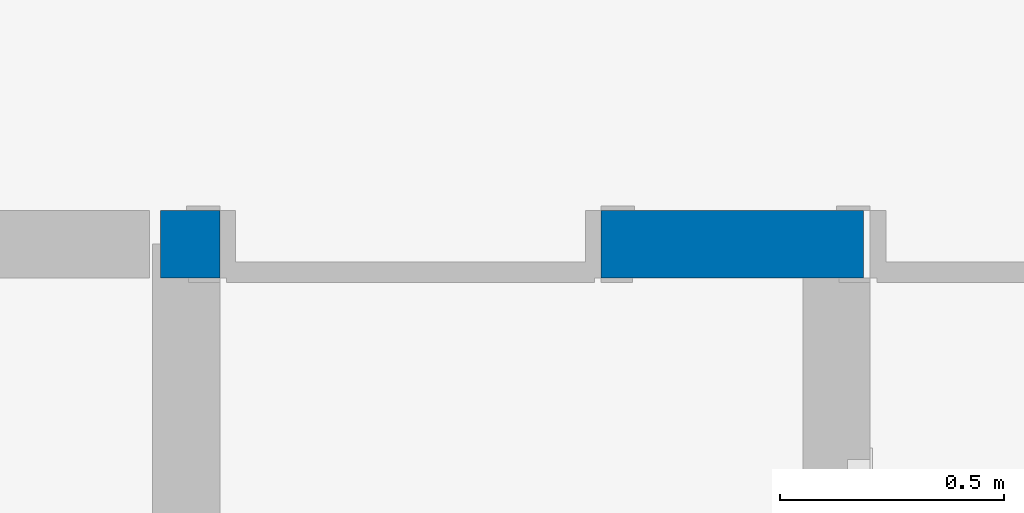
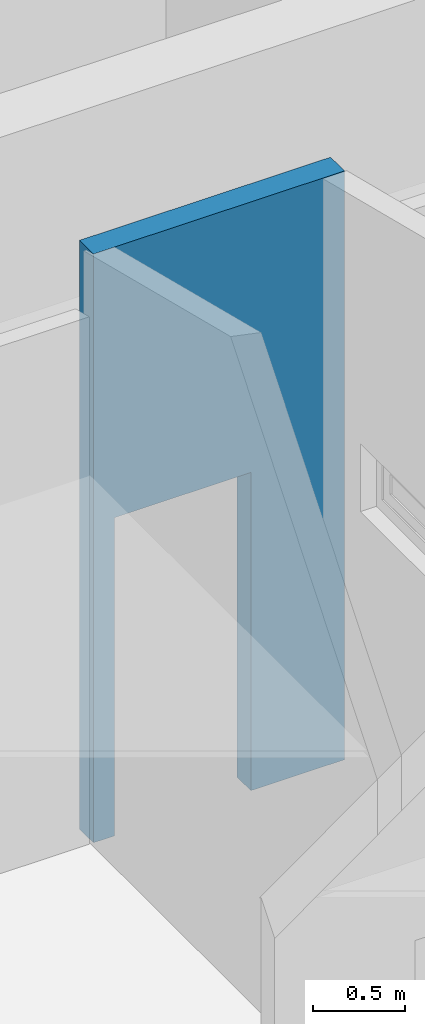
# One storey, part 129 of 153: 1 wall, 2 openings.
"""IFC4 building model written with IfcOpenShell, lengths in metres."""

from ifc_helpers import new_model, entity, si_unit, converted_unit, derived_unit, direction, frame, origin, place, context, subcontext, project, spatial, indexed_curve, outline, extrude, polygons, material, type_object, element, save


model = new_model("IFC4")

# Units and contexts
model_context = context("Model", 3, precision=1e-05, world=origin(), true_north=direction((6.123031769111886e-17, 1.0)))
body_context = subcontext(model_context, "Body", "Model", "MODEL_VIEW")
ifc_project = project(units=[si_unit("LENGTHUNIT", "METRE"), si_unit("AREAUNIT", "SQUARE_METRE"), si_unit("VOLUMEUNIT", "CUBIC_METRE"), converted_unit("PLANEANGLEUNIT", "DEGREE", entity("IfcRatioMeasure", 0.017453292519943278), si_unit("PLANEANGLEUNIT", "RADIAN"), dimensions=[0, 0, 0, 0, 0, 0, 0]), si_unit("MASSUNIT", "GRAM", prefix="KILO"), derived_unit("MASSDENSITYUNIT", [(si_unit("MASSUNIT", "GRAM", prefix="KILO"), 1), (si_unit("LENGTHUNIT", "METRE"), -3)]), derived_unit("MOMENTOFINERTIAUNIT", [(si_unit("LENGTHUNIT", "METRE"), 4)]), si_unit("TIMEUNIT", "SECOND"), si_unit("FREQUENCYUNIT", "HERTZ"), si_unit("THERMODYNAMICTEMPERATUREUNIT", "DEGREE_CELSIUS"), derived_unit("THERMALTRANSMITTANCEUNIT", [(si_unit("MASSUNIT", "GRAM", prefix="KILO"), 1), (si_unit("THERMODYNAMICTEMPERATUREUNIT", "KELVIN"), -1), (si_unit("TIMEUNIT", "SECOND"), -3)]), derived_unit("VOLUMETRICFLOWRATEUNIT", [(si_unit("LENGTHUNIT", "METRE"), 3), (si_unit("TIMEUNIT", "SECOND"), -1)]), derived_unit("MASSFLOWRATEUNIT", [(si_unit("MASSUNIT", "GRAM", prefix="KILO"), 1), (si_unit("TIMEUNIT", "SECOND"), -1)]), derived_unit("ROTATIONALFREQUENCYUNIT", [(si_unit("TIMEUNIT", "SECOND"), -1)]), si_unit("ELECTRICCURRENTUNIT", "AMPERE"), si_unit("ELECTRICVOLTAGEUNIT", "VOLT"), si_unit("POWERUNIT", "WATT"), si_unit("FORCEUNIT", "NEWTON", prefix="KILO"), si_unit("ILLUMINANCEUNIT", "LUX"), si_unit("LUMINOUSFLUXUNIT", "LUMEN"), si_unit("LUMINOUSINTENSITYUNIT", "CANDELA"), derived_unit("USERDEFINED", [(si_unit("MASSUNIT", "GRAM", prefix="KILO"), -1), (si_unit("LENGTHUNIT", "METRE"), -2), (si_unit("TIMEUNIT", "SECOND"), 3), (si_unit("LUMINOUSFLUXUNIT", "LUMEN"), 1)]), derived_unit("SOUNDPOWERUNIT", [(si_unit("MASSUNIT", "GRAM", prefix="KILO"), 1), (si_unit("LENGTHUNIT", "METRE"), 2), (si_unit("TIMEUNIT", "SECOND"), -3)]), derived_unit("SOUNDPRESSUREUNIT", [(si_unit("MASSUNIT", "GRAM", prefix="KILO"), 1), (si_unit("LENGTHUNIT", "METRE"), -1), (si_unit("TIMEUNIT", "SECOND"), -2)]), derived_unit("LINEARVELOCITYUNIT", [(si_unit("LENGTHUNIT", "METRE"), 1), (si_unit("TIMEUNIT", "SECOND"), -1)]), si_unit("PRESSUREUNIT", "PASCAL"), derived_unit("USERDEFINED", [(si_unit("LENGTHUNIT", "METRE"), -2), (si_unit("MASSUNIT", "GRAM", prefix="KILO"), 1), (si_unit("TIMEUNIT", "SECOND"), -2)]), derived_unit("LINEARFORCEUNIT", [(si_unit("MASSUNIT", "GRAM", prefix="KILO"), 1), (si_unit("LENGTHUNIT", "METRE"), 1), (si_unit("TIMEUNIT", "SECOND"), -2), (si_unit("LENGTHUNIT", "METRE"), -1)]), derived_unit("PLANARFORCEUNIT", [(si_unit("MASSUNIT", "GRAM", prefix="KILO"), 1), (si_unit("LENGTHUNIT", "METRE"), 1), (si_unit("TIMEUNIT", "SECOND"), -2), (si_unit("LENGTHUNIT", "METRE"), -2)])], contexts=[model_context])

# Site, building, storey
site_placement = place(None, origin())
site = spatial("IfcSite", under=ifc_project, at=site_placement, Name="Superficie", CompositionType="ELEMENT")
building_placement = place(site_placement, origin())
building = spatial("IfcBuilding", under=site, at=building_placement, CompositionType="ELEMENT")
storey_placement = place(building_placement, frame((0.0, 0.0, 3.5999999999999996)))
storey = spatial("IfcBuildingStorey", under=building, at=storey_placement, Name="Nivel 1", CompositionType="ELEMENT", Elevation=3.5999999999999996)

# Wall, openings
ifc_material = material(Name="Muro por defecto", Category="Varios")
wall_type = type_object("IfcWallType", Name="Muro básico:Por defecto - 15 cm 2", PredefinedType="STANDARD")
wall_placement = place(storey_placement, frame((6.716001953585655, 8.950829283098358, 0.5199999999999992), z_axis=(0.0, 0.0, 1.0), x_axis=(-1.0, 0.0, 0.0)))
wall = element("IfcWall", 1, at=wall_placement, inside=storey, type_object=wall_type, material=ifc_material, Name="Muro básico:Por defecto - 15 cm 2", ObjectType="Muro básico:Por defecto - 15 cm 2", PredefinedType="NOTDEFINED", context=body_context, shape_type="Tessellation", body=[
    polygons([(1.5675000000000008, -0.07499999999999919, 5.414335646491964e-16), (1.5675000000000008, -0.07499999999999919, 3.8858230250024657), (7.524117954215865e-16, -0.07499999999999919, 3.8858230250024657), (7.524117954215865e-16, -0.07499999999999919, 5.414335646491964e-16), (0.5849999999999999, -0.07499999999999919, 5.414335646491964e-16), (0.5849999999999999, -0.07499999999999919, 2.099999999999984), (1.4349999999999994, -0.07500000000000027, 2.099999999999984), (1.4349999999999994, -0.07500000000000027, 5.414335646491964e-16), (1.5675000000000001, 0.07500000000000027, 3.8858230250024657), (1.5675000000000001, 0.07500000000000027, 5.414335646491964e-16), (1.434999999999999, 0.07499999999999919, 5.414335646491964e-16), (1.434999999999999, 0.07499999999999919, 2.099999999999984), (0.5849999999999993, 0.07500000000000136, 2.099999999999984), (0.5850000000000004, 0.07500000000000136, 5.414335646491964e-16), (0.13500000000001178, 0.07499999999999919, 5.414335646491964e-16), (2.360156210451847e-16, 0.07500000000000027, 5.414335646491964e-16), (2.360156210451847e-16, 0.07500000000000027, 3.8858230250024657)], [[[1, 2, 3, 4, 5, 6, 7, 8]], [[9, 10, 11, 12, 13, 14, 15, 16, 17]], [[4, 16, 15, 14, 5]], [[2, 1, 10, 9]], [[3, 2, 9, 17]], [[4, 3, 17, 16]], [[7, 12, 11, 8]], [[12, 7, 6, 13]], [[13, 6, 5, 14]], [[10, 1, 8, 11]]], closed=True),
])
opening_1_placement = place(wall_placement, origin())
element("IfcOpeningElement", 2, at=opening_1_placement, cuts=wall, Name="Muro básico:Por defecto - 15 cm 2", PredefinedType="OPENING", context=body_context, shape_type="SweptSolid", body=[
    extrude(outline(indexed_curve([(-0.42499999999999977, -1.0499999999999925), (0.42499999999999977, -1.0499999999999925), (0.42499999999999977, 1.049999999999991), (-0.42499999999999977, 1.049999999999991), (-0.42499999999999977, -1.0499999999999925)], self_intersect=False)), frame((-0.4399999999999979, -1.5990000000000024, 1.049999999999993), z_axis=(0.0, 1.0, 0.0), x_axis=(-1.0, 0.0, 0.0)), (0.0, 0.0, 1.0), 3.047999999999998),
])
opening_2_placement = place(wall_placement, frame((0.5849999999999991, -0.07500000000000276, 0.0)))
element("IfcOpeningElement", 3, at=opening_2_placement, cuts=wall, Name="Puerta de 1 hoja:85 x 210 cm 2:1", PredefinedType="OPENING", context=body_context, shape_type="SweptSolid", body=[
    extrude(outline(indexed_curve([(0.0, 0.8499999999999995), (0.0, -1.1067271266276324e-30), (2.099999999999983, -1.1067271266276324e-30), (2.099999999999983, 0.8499999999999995), (0.0, 0.8499999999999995)], self_intersect=False)), frame((0.0, 0.0, 0.0), z_axis=(0.0, 1.0, 0.0), x_axis=(0.0, 0.0, 1.0)), (0.0, 0.0, 1.0), 0.14999999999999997),
])

save(model, "model.ifc")
